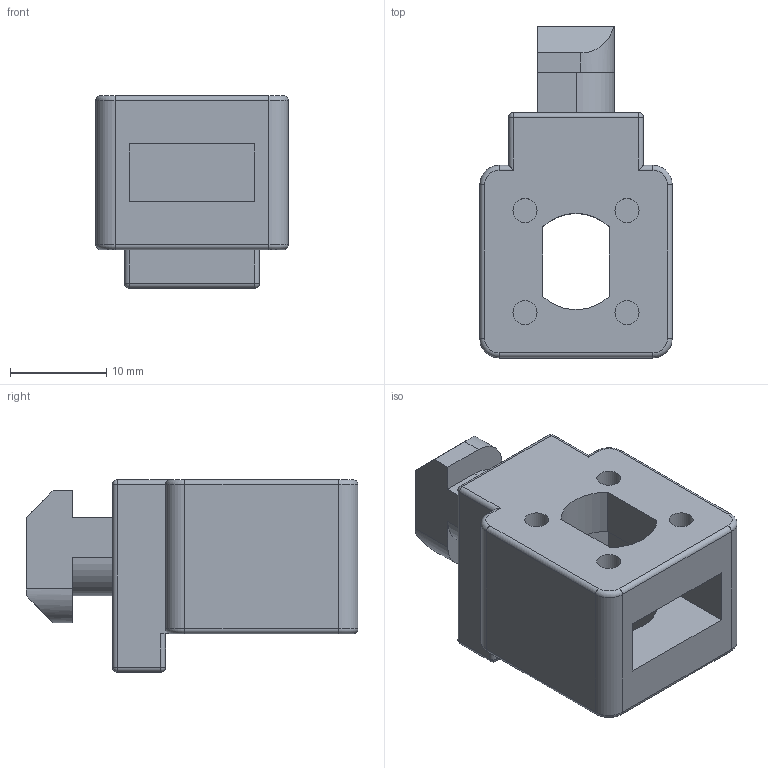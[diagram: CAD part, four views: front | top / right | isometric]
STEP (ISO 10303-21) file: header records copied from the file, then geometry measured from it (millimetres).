
FILE_DESCRIPTION(/* description */ ('STEP AP203'),/* implementation_level */ '2;1');
FILE_NAME(/* name */ 'C:\Users\Stefan.Nesic\Desktop\01010STEP\000Verifica\CORRETTI\PMB45B.stp',/* time_stamp */ '2022-07-12T12:24:37+02:00',/* author */ (''),/* organization */ (''),/* preprocessor_version */ 'ST-DEVELOPER v18.1',/* originating_system */ 'Autodesk Inventor 2021',/* authorisation */ '');
FILE_SCHEMA (('AUTOMOTIVE_DESIGN { 1 0 10303 214 3 1 1 }'));
Length unit declared in the file: millimetre
Products named in the file (1): PMB45B
Bounding box: 20 x 34.5 x 20 mm (x, y, z)
Volume: 6529.3 mm3; surface area: 3687.1 mm2
Topology: 1 solids, 1 shells, 95 faces, 219 edges, 130 vertices
Faces by surface type: cylinder 41, plane 40, torus 8, sphere 6
Full cylindrical faces by diameter (mm): 2.5 x8
Entity records: 2678 total; most frequent: DIRECTION 495, CARTESIAN_POINT 439, ORIENTED_EDGE 426, EDGE_CURVE 213, AXIS2_PLACEMENT_3D 186, VERTEX_POINT 130, LINE 123, VECTOR 123
